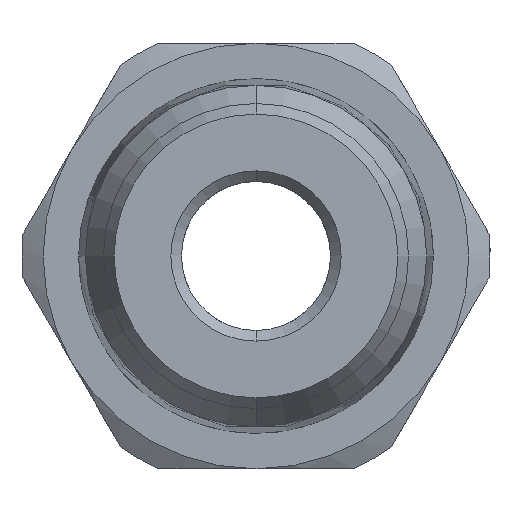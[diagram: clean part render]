
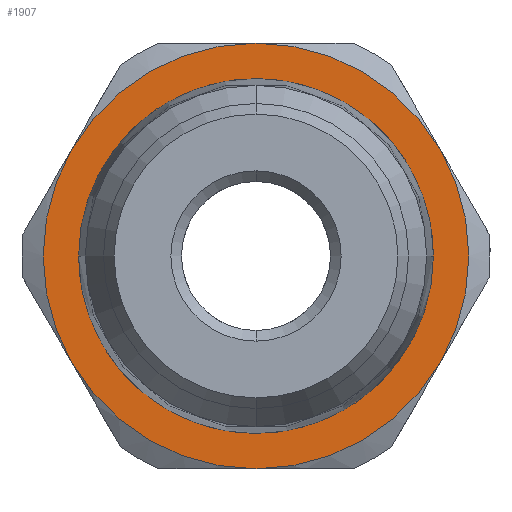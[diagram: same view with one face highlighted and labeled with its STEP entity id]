
A CAD part, front view. The second image highlights one B-rep face of the part: STEP entity #1907.
In plain terms, the highlighted planar face has unit normal (0, -1, 0).
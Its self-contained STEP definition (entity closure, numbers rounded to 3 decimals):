
#154 = EDGE_CURVE ( 'NONE', #788, #1865, #2418, .T. ) ;
#182 = CIRCLE ( 'NONE', #4900, 6. ) ;
#201 = ORIENTED_EDGE ( 'NONE', *, *, #4984, .F. ) ;
#309 = AXIS2_PLACEMENT_3D ( 'NONE', #4610, #2401, #5193 ) ;
#556 = CARTESIAN_POINT ( 'NONE',  ( 0., 7.5, 0. ) ) ;
#696 = EDGE_CURVE ( 'NONE', #3430, #2583, #3134, .T. ) ;
#752 = CARTESIAN_POINT ( 'NONE',  ( 0., 7.5, 0. ) ) ;
#788 = VERTEX_POINT ( 'NONE', #5060 ) ;
#851 = EDGE_LOOP ( 'NONE', ( #3334, #3644 ) ) ;
#1088 = DIRECTION ( 'NONE',  ( 0., 0., 1. ) ) ;
#1183 = AXIS2_PLACEMENT_3D ( 'NONE', #4244, #2035, #6661 ) ;
#1303 = DIRECTION ( 'NONE',  ( 0., 1., 0. ) ) ;
#1629 = CARTESIAN_POINT ( 'NONE',  ( 5., 7.5, 0. ) ) ;
#1750 = CARTESIAN_POINT ( 'NONE',  ( -5.196, 7.5, -3. ) ) ;
#1865 = VERTEX_POINT ( 'NONE', #1750 ) ;
#1907 = ADVANCED_FACE ( 'NONE', ( #2808, #6143 ), #4312, .F. ) ;
#1945 = EDGE_CURVE ( 'NONE', #5029, #788, #5097, .T. ) ;
#2035 = DIRECTION ( 'NONE',  ( 0., 1., 0. ) ) ;
#2233 = CIRCLE ( 'NONE', #309, 5. ) ;
#2401 = DIRECTION ( 'NONE',  ( 0., -1., 0. ) ) ;
#2418 = CIRCLE ( 'NONE', #5320, 6. ) ;
#2466 = CIRCLE ( 'NONE', #4203, 6. ) ;
#2513 = VERTEX_POINT ( 'NONE', #5122 ) ;
#2523 = CARTESIAN_POINT ( 'NONE',  ( 0., 7.5, 0. ) ) ;
#2543 = CARTESIAN_POINT ( 'NONE',  ( -5., 7.5, 0. ) ) ;
#2583 = VERTEX_POINT ( 'NONE', #2543 ) ;
#2592 = VERTEX_POINT ( 'NONE', #6473 ) ;
#2631 = DIRECTION ( 'NONE',  ( 0., 1., 0. ) ) ;
#2712 = EDGE_CURVE ( 'NONE', #6578, #2513, #6844, .T. ) ;
#2808 = FACE_BOUND ( 'NONE', #851, .T. ) ;
#2930 = AXIS2_PLACEMENT_3D ( 'NONE', #3463, #1303, #2952 ) ;
#2952 = DIRECTION ( 'NONE',  ( 0., 0., 1. ) ) ;
#3000 = ORIENTED_EDGE ( 'NONE', *, *, #2712, .F. ) ;
#3113 = ORIENTED_EDGE ( 'NONE', *, *, #6635, .F. ) ;
#3134 = CIRCLE ( 'NONE', #5438, 5. ) ;
#3198 = CARTESIAN_POINT ( 'NONE',  ( 0., 7.5, 0. ) ) ;
#3334 = ORIENTED_EDGE ( 'NONE', *, *, #5481, .F. ) ;
#3367 = AXIS2_PLACEMENT_3D ( 'NONE', #556, #6508, #1088 ) ;
#3430 = VERTEX_POINT ( 'NONE', #1629 ) ;
#3436 = DIRECTION ( 'NONE',  ( 0., 0., 1. ) ) ;
#3463 = CARTESIAN_POINT ( 'NONE',  ( 0., 7.5, 0. ) ) ;
#3550 = DIRECTION ( 'NONE',  ( 0., 1., 0. ) ) ;
#3644 = ORIENTED_EDGE ( 'NONE', *, *, #696, .F. ) ;
#4203 = AXIS2_PLACEMENT_3D ( 'NONE', #2523, #2631, #5893 ) ;
#4244 = CARTESIAN_POINT ( 'NONE',  ( 0., 7.5, 0. ) ) ;
#4250 = CARTESIAN_POINT ( 'NONE',  ( 0., 7.5, 0. ) ) ;
#4312 = PLANE ( 'NONE',  #5788 ) ;
#4610 = CARTESIAN_POINT ( 'NONE',  ( 0., 7.5, 0. ) ) ;
#4683 = DIRECTION ( 'NONE',  ( 0., 0., 1. ) ) ;
#4797 = DIRECTION ( 'NONE',  ( 0., 1., 0. ) ) ;
#4900 = AXIS2_PLACEMENT_3D ( 'NONE', #752, #3550, #3436 ) ;
#4919 = EDGE_CURVE ( 'NONE', #2592, #6578, #182, .T. ) ;
#4984 = EDGE_CURVE ( 'NONE', #1865, #2592, #2466, .T. ) ;
#5029 = VERTEX_POINT ( 'NONE', #6950 ) ;
#5060 = CARTESIAN_POINT ( 'NONE',  ( 0., 7.5, -6. ) ) ;
#5097 = CIRCLE ( 'NONE', #1183, 6. ) ;
#5122 = CARTESIAN_POINT ( 'NONE',  ( 5.196, 7.5, 3. ) ) ;
#5184 = ORIENTED_EDGE ( 'NONE', *, *, #1945, .F. ) ;
#5193 = DIRECTION ( 'NONE',  ( -1., 0., 0. ) ) ;
#5278 = ORIENTED_EDGE ( 'NONE', *, *, #154, .F. ) ;
#5320 = AXIS2_PLACEMENT_3D ( 'NONE', #4250, #4797, #4683 ) ;
#5400 = DIRECTION ( 'NONE',  ( 0., 0., 1. ) ) ;
#5438 = AXIS2_PLACEMENT_3D ( 'NONE', #3198, #6462, #7137 ) ;
#5481 = EDGE_CURVE ( 'NONE', #2583, #3430, #2233, .T. ) ;
#5599 = DIRECTION ( 'NONE',  ( 0., 1., 0. ) ) ;
#5637 = EDGE_LOOP ( 'NONE', ( #6553, #201, #5278, #5184, #3113, #3000 ) ) ;
#5788 = AXIS2_PLACEMENT_3D ( 'NONE', #6538, #5599, #5400 ) ;
#5893 = DIRECTION ( 'NONE',  ( 0., 0., 1. ) ) ;
#6038 = CARTESIAN_POINT ( 'NONE',  ( 0., 7.5, 6. ) ) ;
#6143 = FACE_OUTER_BOUND ( 'NONE', #5637, .T. ) ;
#6285 = CIRCLE ( 'NONE', #2930, 6. ) ;
#6462 = DIRECTION ( 'NONE',  ( 0., -1., 0. ) ) ;
#6473 = CARTESIAN_POINT ( 'NONE',  ( -5.196, 7.5, 3. ) ) ;
#6508 = DIRECTION ( 'NONE',  ( 0., 1., 0. ) ) ;
#6538 = CARTESIAN_POINT ( 'NONE',  ( 0., 7.5, 0. ) ) ;
#6553 = ORIENTED_EDGE ( 'NONE', *, *, #4919, .F. ) ;
#6578 = VERTEX_POINT ( 'NONE', #6038 ) ;
#6635 = EDGE_CURVE ( 'NONE', #2513, #5029, #6285, .T. ) ;
#6661 = DIRECTION ( 'NONE',  ( 0., 0., 1. ) ) ;
#6844 = CIRCLE ( 'NONE', #3367, 6. ) ;
#6950 = CARTESIAN_POINT ( 'NONE',  ( 5.196, 7.5, -3. ) ) ;
#7137 = DIRECTION ( 'NONE',  ( -1., 0., 0. ) ) ;
